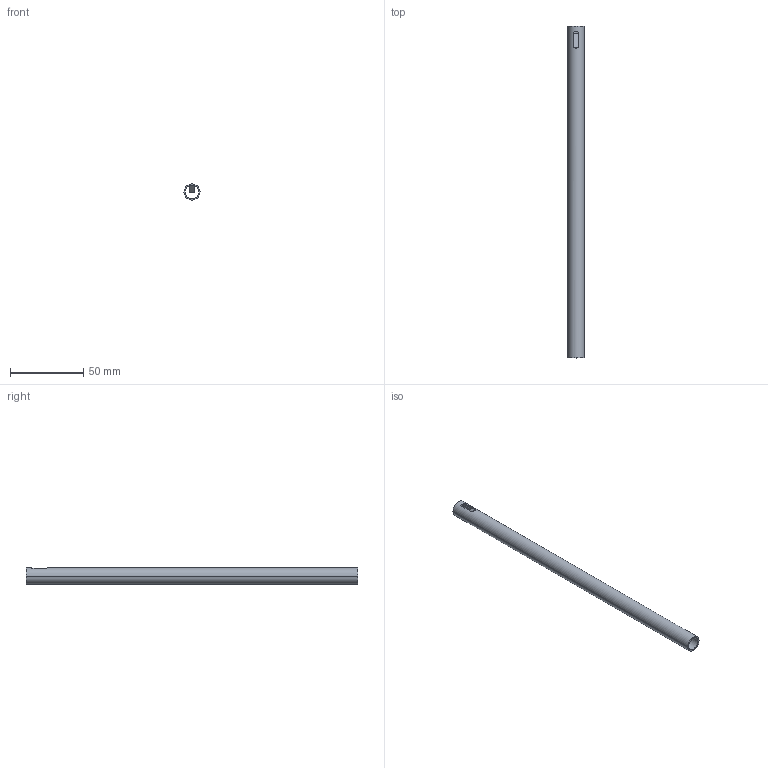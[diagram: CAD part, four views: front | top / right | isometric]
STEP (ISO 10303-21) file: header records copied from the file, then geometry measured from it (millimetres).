
FILE_DESCRIPTION (( 'STEP AP214' ), '1' );
FILE_NAME ('Relingsrohr_2S-Rundrel_P760604300_250.step', '2010-09-07T12:59:20', ( 'grass' ), ( '' ), 'SwSTEP 2.0', 'SolidWorks 2010', '' );
FILE_SCHEMA (( 'AUTOMOTIVE_DESIGN' ));
Length unit declared in the file: millimetre
Products named in the file (1): Relingsrohr_2S-Rundrel_P760604300_250
Bounding box: 11 x 226 x 11 mm (x, y, z)
Volume: 7097.8 mm3; surface area: 14303.3 mm2
Topology: 1 solids, 1 shells, 14 faces, 34 edges, 22 vertices
Faces by surface type: plane 10, cylinder 4
Entity records: 476 total; most frequent: CARTESIAN_POINT 77, DIRECTION 72, ORIENTED_EDGE 68, EDGE_CURVE 34, AXIS2_PLACEMENT_3D 25, VECTOR 22, LINE 22, VERTEX_POINT 22
